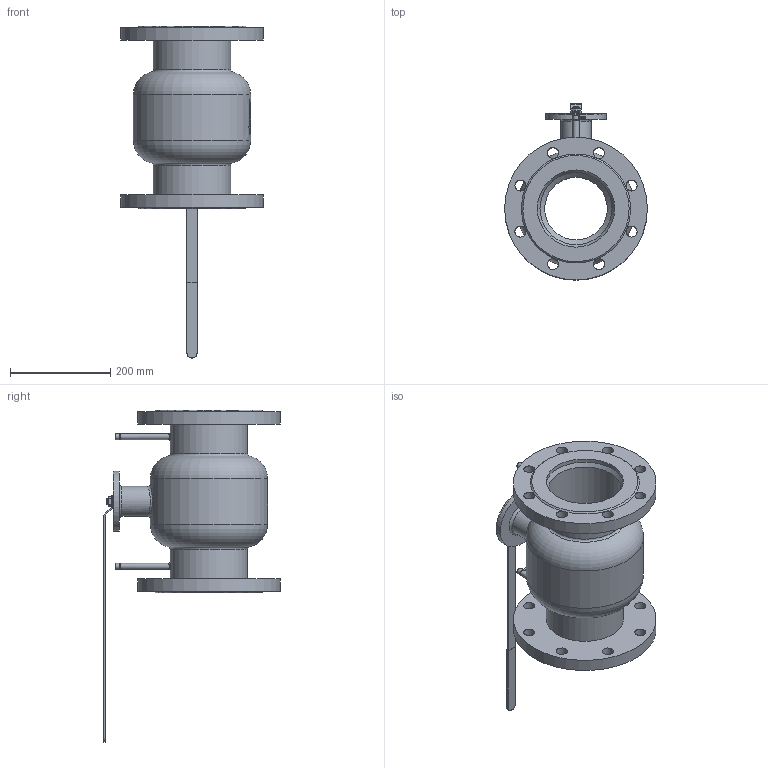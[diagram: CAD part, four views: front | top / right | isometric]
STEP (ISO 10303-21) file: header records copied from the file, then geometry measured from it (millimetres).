
FILE_DESCRIPTION(('STEP AP214'), '1');
FILE_NAME('BVR3232P-SP-F-H Êðàí øàðîâîé ðåãóëèðóþùèé DN.ru Äó150 Ðó16', '', ('UNSPECIFIED'), ('UNSPECIFIED'), 'C3D Converter', 'C3D Toolkit', '');
FILE_SCHEMA(('AUTOMOTIVE_DESIGN { 1 0 10303 214 3 1 1}'));
Length unit declared in the file: millimetre
Products named in the file (1): BVR3232P-SP-F-H
Bounding box: 285 x 352.5 x 662.5 mm (x, y, z)
Volume: 7657787.9 mm3; surface area: 686292.7 mm2
Topology: 1 solids, 1 shells, 716 faces, 1872 edges, 1249 vertices
Faces by surface type: plane 335, bspline 180, cylinder 97, extrusion 82, cone 13, torus 9
Full cylindrical faces by diameter (mm): 2.5 x2, 5 x2, 12 x6, 22 x16, 60 x1, 116 x1, 120 x1, 125 x1, 144 x2, 154 x4, 234 x1, 285 x2
Entity records: 78965 total; most frequent: CARTESIAN_POINT 61991, ORIENTED_EDGE 3618, DIRECTION 2390, EDGE_CURVE 1809, VERTEX_POINT 1249, VECTOR 922, EDGE_LOOP 904, LINE 840
